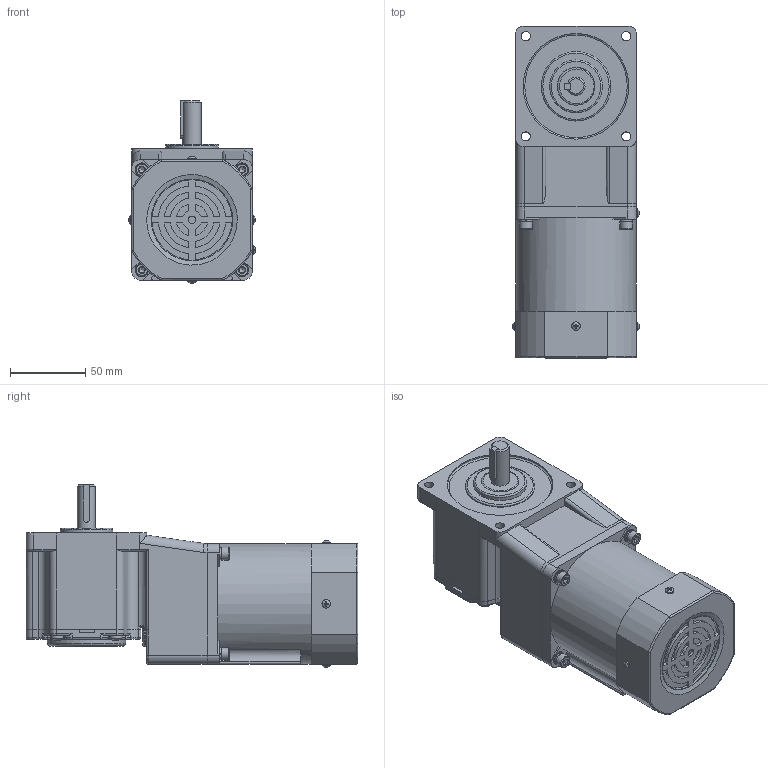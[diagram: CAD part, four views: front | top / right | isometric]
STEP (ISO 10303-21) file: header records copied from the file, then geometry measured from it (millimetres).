
FILE_DESCRIPTION(/* description */ (''),/* implementation_level */ '2;1');
FILE_NAME(/* name */ '80+中实直角-风叶-25W.stp',/* time_stamp */ '2022-11-01T12:54:11+08:00',/* author */ (''),/* organization */ (''),/* preprocessor_version */ 'ST-DEVELOPER v16.7',/* originating_system */ 'SIEMENS PLM Software NX 1899',/* authorisation */ '');
FILE_SCHEMA (('AP203_CONFIGURATION_CONTROLLED_3D_DESIGN_OF_MECHANICAL_PARTS_AND_ASSEMBLIES_MIM_LF { 1 0 10303 403 2 1 2}'));
Length unit declared in the file: millimetre
Products named in the file (1): yf1854BC0762njhs
Bounding box: 84.18 x 220 x 121.09 mm (x, y, z)
Volume: 1216236.6 mm3; surface area: 113556 mm2
Topology: 15 solids, 15 shells, 743 faces, 1751 edges, 1082 vertices
Faces by surface type: plane 395, cylinder 218, torus 59, cone 43, bspline 18, sphere 10
Full cylindrical faces by diameter (mm): 4.2 x4, 4.826 x4, 5 x9, 5.3 x4, 5.6 x5, 6 x8, 8 x4, 8.5 x4, 9 x4, 12 x1, 25 x1, 35 x1, 46 x1, 52 x1, 56 x1, 70 x1, 76 x2, 80 x1
Entity records: 23008 total; most frequent: CARTESIAN_POINT 5309, DIRECTION 3473, ORIENTED_EDGE 3198, EDGE_CURVE 1599, AXIS2_PLACEMENT_3D 1330, VERTEX_POINT 1037, EDGE_LOOP 910, LINE 813
